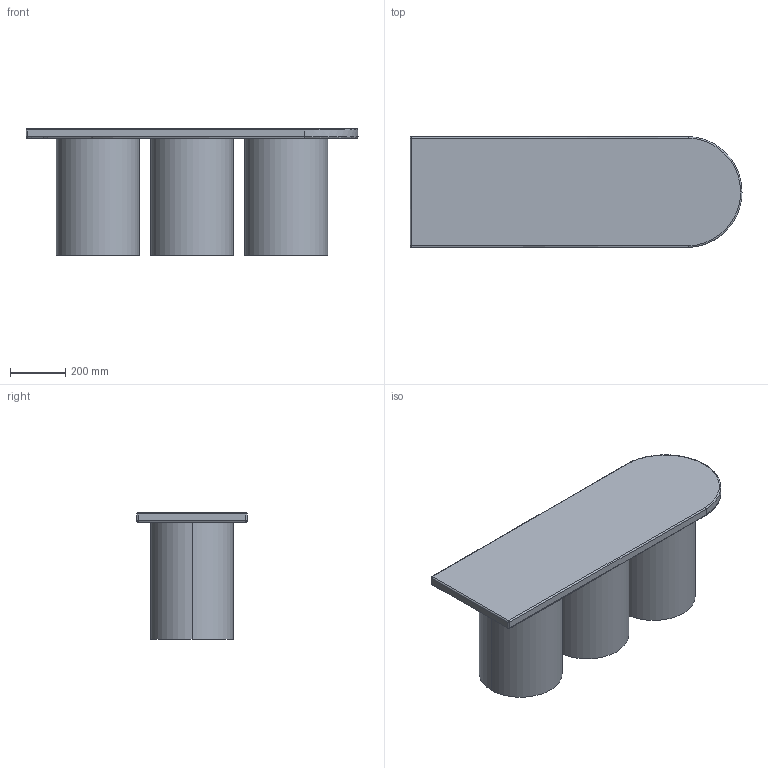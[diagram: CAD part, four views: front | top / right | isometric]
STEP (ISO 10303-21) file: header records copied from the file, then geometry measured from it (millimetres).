
FILE_DESCRIPTION(/* description */ (''),/* implementation_level */ '2;1');
FILE_NAME(/* name */ 'Big Foot Bench',/* time_stamp */ '2021-01-26T13:06:13+01:00',/* author */ (''),/* organization */ (''),/* preprocessor_version */ 'ST-DEVELOPER v15',/* originating_system */ '',/* authorisation */ '');
FILE_SCHEMA (('AUTOMOTIVE_DESIGN'));
Length unit declared in the file: millimetre
Products named in the file (1): Document
Bounding box: 1200 x 400 x 458.21 mm (x, y, z)
Volume: 106095106.6 mm3; surface area: 2640911.2 mm2
Topology: 4 solids, 4 shells, 35 faces, 63 edges, 36 vertices
Faces by surface type: bspline 24, plane 11
Entity records: 1172 total; most frequent: CARTESIAN_POINT 757, ORIENTED_EDGE 126, EDGE_CURVE 63, VERTEX_POINT 36, ADVANCED_FACE 35, FACE_OUTER_BOUND 35, EDGE_LOOP 35, B_SPLINE_CURVE_WITH_KNOTS 18
